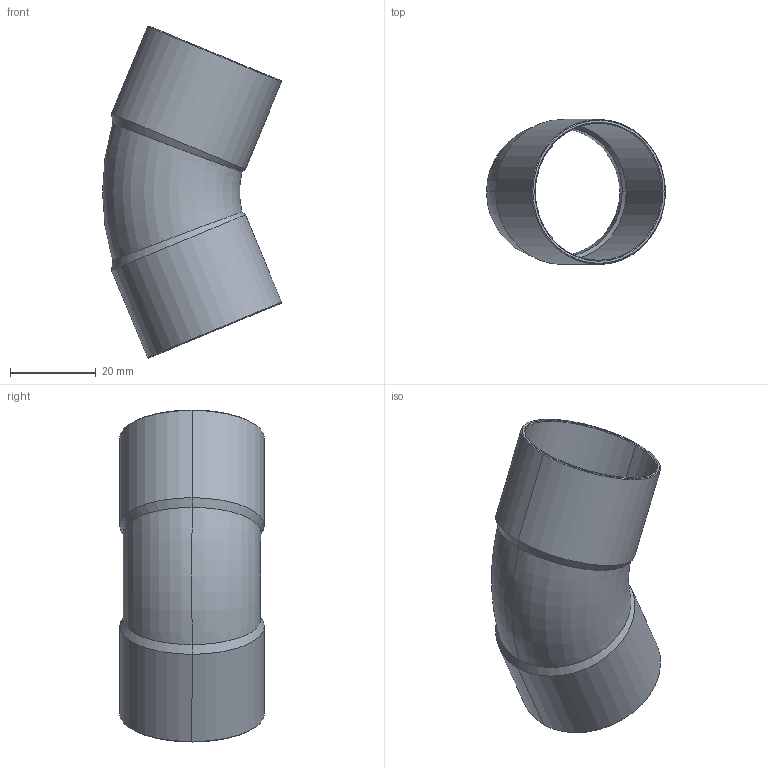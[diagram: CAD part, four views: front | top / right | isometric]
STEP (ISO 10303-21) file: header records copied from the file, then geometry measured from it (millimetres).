
FILE_DESCRIPTION((''),'2;1');
FILE_NAME('P:\Bouwmaten\z-maattekeningen 3D\5000\5040\1504132.stp','2005-10-12T15:25:49',('Kris'),(''),'Autodesk Inventor 8','Autodesk Inventor 8','');
FILE_SCHEMA(('AUTOMOTIVE_DESIGN { 1 0 10303 214 1 1 1 1 }'));
Length unit declared in the file: millimetre
Products named in the file (1): 1504132
Bounding box: 41.77 x 33.8 x 77.45 mm (x, y, z)
Volume: 6275.1 mm3; surface area: 14100.5 mm2
Topology: 1 solids, 1 shells, 30 faces, 60 edges, 32 vertices
Faces by surface type: cone 12, bspline 9, torus 4, cylinder 4, plane 1
Entity records: 1027 total; most frequent: CARTESIAN_POINT 414, DIRECTION 124, ORIENTED_EDGE 120, EDGE_CURVE 60, AXIS2_PLACEMENT_3D 50, VERTEX_POINT 32, EDGE_LOOP 32, FACE_OUTER_BOUND 30
